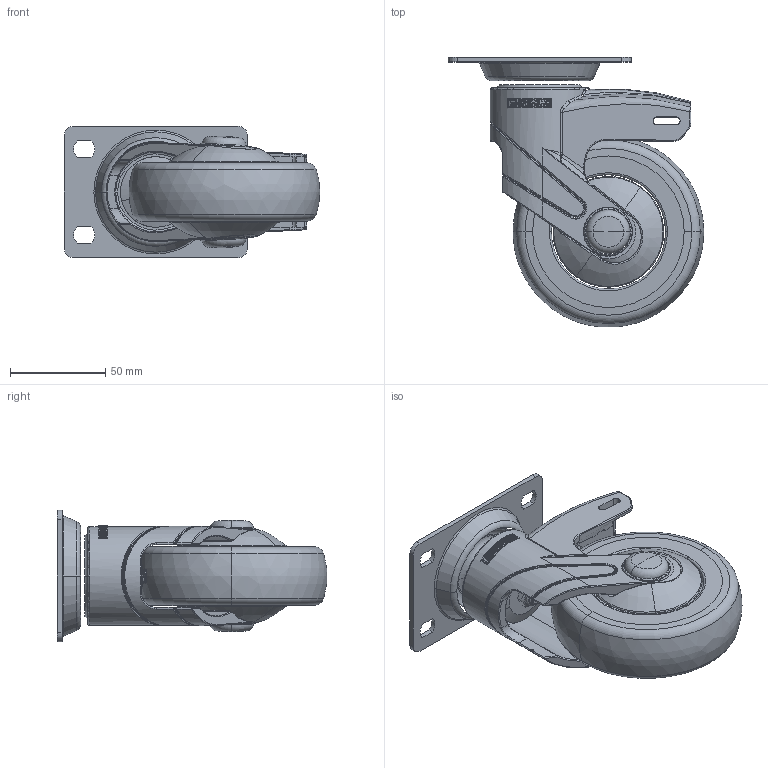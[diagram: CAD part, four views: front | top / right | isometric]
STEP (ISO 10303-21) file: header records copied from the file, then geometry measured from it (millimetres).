
FILE_DESCRIPTION((''),'2;1');
FILE_NAME('PRT0004','2026-03-02T16:15:37',('Administrator'),(''),'CREO PARAMETRIC BY PTC INC, 2022124','CREO PARAMETRIC BY PTC INC, 2022124','');
FILE_SCHEMA(('AUTOMOTIVE_DESIGN { 1 0 10303 214 1 1 1 1 }'));
Length unit declared in the file: millimetre
Products named in the file (1): PRT0004
Bounding box: 134 x 141.29 x 69 mm (x, y, z)
Surface area: 62983.1 mm2 (no closed solid volume)
Topology: 0 solids, 25 shells, 405 faces, 1562 edges, 1121 vertices
Faces by surface type: bspline 138, cylinder 106, plane 79, torus 55, cone 19, sphere 8
Entity records: 29584 total; most frequent: CARTESIAN_POINT 15343, ORIENTED_EDGE 2328, DIRECTION 1916, EDGE_CURVE 1550, VERTEX_POINT 1121, AXIS2_PLACEMENT_3D 760, B_SPLINE_CURVE_WITH_KNOTS 674, CIRCLE 483
